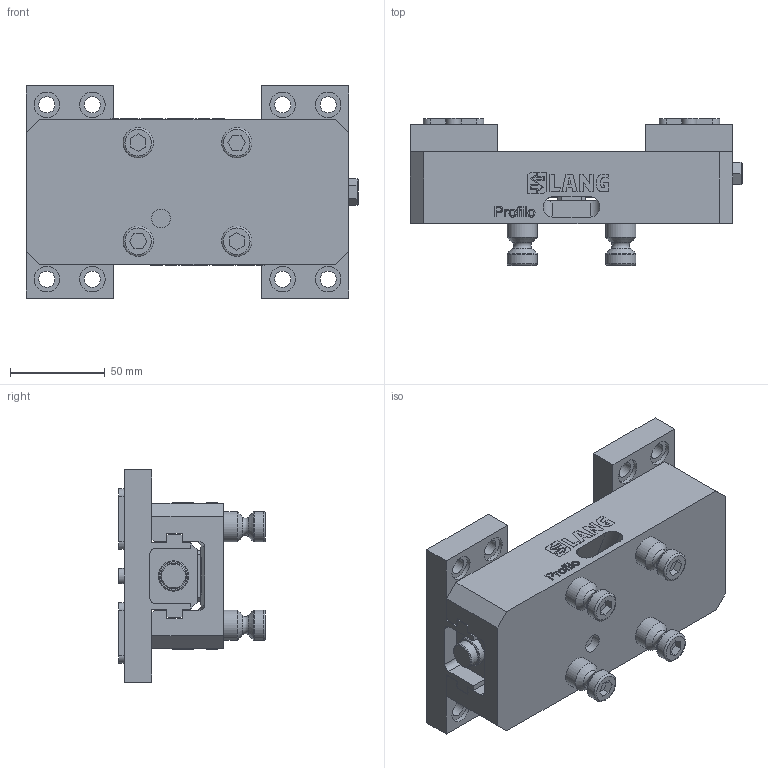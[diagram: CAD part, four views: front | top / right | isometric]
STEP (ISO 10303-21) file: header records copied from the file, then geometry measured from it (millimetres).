
FILE_DESCRIPTION (( 'STEP AP214' ), '1' );
FILE_NAME ('49080-77.STEP', '2020-03-13T14:11:56', ( '' ), ( '' ), 'SwSTEP 2.0', 'SolidWorks 2019', '' );
FILE_SCHEMA (( 'AUTOMOTIVE_DESIGN' ));
Length unit declared in the file: millimetre
Products named in the file (3): 49077; 49080-77; Profilo_49080-77
Assembly tree (3 placements, depth 2):
  49080-77
    Profilo_49080-77
    49077  x2
Bounding box: 175.24 x 77.5 x 112 mm (x, y, z)
Volume: 547510 mm3; surface area: 125182.4 mm2
Topology: 40 solids, 40 shells, 752 faces, 1864 edges, 1223 vertices
Faces by surface type: plane 537, bspline 102, cylinder 82, cone 19, torus 12
Full cylindrical faces by diameter (mm): 6.8 x4, 8.5 x8, 10 x1, 12 x8, 13.5 x9, 16 x12
Entity records: 30947 total; most frequent: CARTESIAN_POINT 7664, ORIENTED_EDGE 3238, DIRECTION 2680, EDGE_CURVE 1619, LINE 1262, VECTOR 1262, VERTEX_POINT 1101, EDGE_LOOP 802
